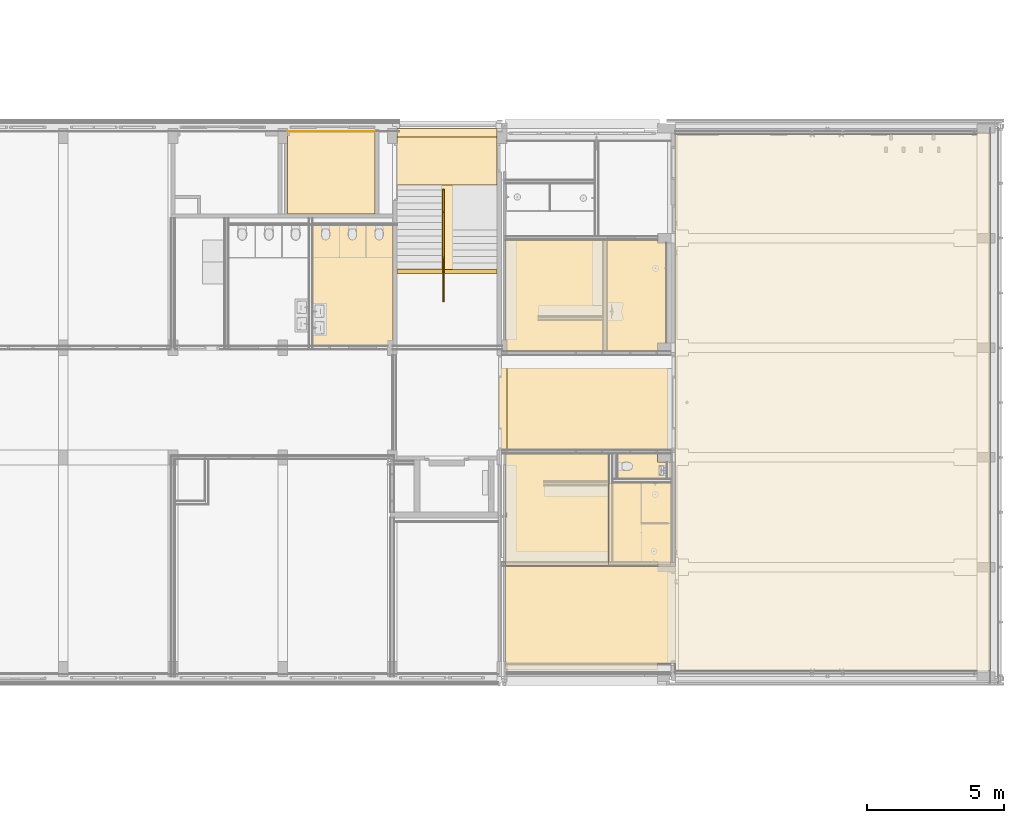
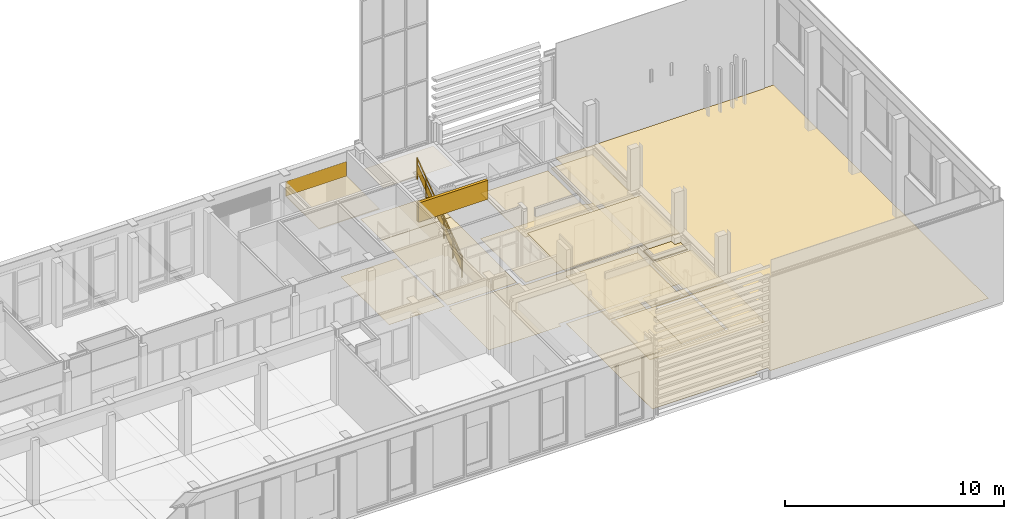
# One storey, part 89 of 109: 20 coverings, 1 railing.
"""IFC2X3 building model written with IfcOpenShell, lengths in millimetres."""

from ifc_helpers import new_model, entity, si_unit, converted_unit, derived_unit, money_unit, direction, frame, origin_with_axes, place, context, subcontext, project, spatial, faceted_brep, material, material_list, type_object, element, save


model = new_model("IFC2X3")

# Units and contexts
model_context = context("Model", 3, precision=0.01, world=origin_with_axes(), true_north=direction((0.0, 1.0)))
body_context = subcontext(model_context, "Body", "Model", "MODEL_VIEW")
ifc_project = project(units=[si_unit("LENGTHUNIT", "METRE", prefix="MILLI"), si_unit("AREAUNIT", "SQUARE_METRE"), si_unit("VOLUMEUNIT", "CUBIC_METRE"), converted_unit("PLANEANGLEUNIT", "DEGREE", entity("IfcPlaneAngleMeasure", 0.0174532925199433), si_unit("PLANEANGLEUNIT", "RADIAN"), dimensions=[0, 0, 0, 0, 0, 0, 0]), money_unit("EUR"), converted_unit("TIMEUNIT", "Year", entity("IfcTimeMeasure", 31557600.0), si_unit("TIMEUNIT", "SECOND"), dimensions=[0, 0, 1, 0, 0, 0, 0]), si_unit("MASSUNIT", "GRAM", prefix="KILO"), si_unit("THERMODYNAMICTEMPERATUREUNIT", "DEGREE_CELSIUS"), si_unit("LUMINOUSINTENSITYUNIT", "LUMEN"), si_unit("ENERGYUNIT", "JOULE", prefix="MEGA"), derived_unit("THERMALCONDUCTANCEUNIT", [(si_unit("POWERUNIT", "WATT"), 1), (si_unit("LENGTHUNIT", "METRE"), -1), (si_unit("THERMODYNAMICTEMPERATUREUNIT", "KELVIN"), -1)]), derived_unit("SPECIFICHEATCAPACITYUNIT", [(si_unit("ENERGYUNIT", "JOULE"), 1), (si_unit("MASSUNIT", "GRAM", prefix="KILO"), -1), (si_unit("THERMODYNAMICTEMPERATUREUNIT", "KELVIN"), -1)]), derived_unit("MASSDENSITYUNIT", [(si_unit("MASSUNIT", "GRAM", prefix="KILO"), 1), (si_unit("VOLUMEUNIT", "CUBIC_METRE"), -1)])], contexts=[model_context])

# Site, building, storey
site_placement = place(None, origin_with_axes())
site = spatial("IfcSite", under=ifc_project, at=site_placement, Name="<site naam>", CompositionType="ELEMENT")
building_placement = place(site_placement, origin_with_axes())
building = spatial("IfcBuilding", under=site, at=building_placement, Name="<Naam gebouw>", CompositionType="ELEMENT")
storey_placement = place(building_placement, origin_with_axes())
storey = spatial("IfcBuildingStorey", under=building, at=storey_placement, Name="00 Begane grond", CompositionType="ELEMENT", Elevation=0.0)

# Coverings
ifc_material_1 = material(Name="Gietvloer type 02a")
covering_type_1 = type_object("IfcCoveringType", Name="VA-02a 3", PredefinedType="CEILING")
covering_1_placement = place(storey_placement, frame((52135.00000000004, 4049.999962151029, 0.0), z_axis=(0.0, 0.0, 1.0), x_axis=(1.0, 0.0, 0.0)))
element("IfcCovering", 1, at=covering_1_placement, inside=storey, type_object=covering_type_1, material=ifc_material_1, Name="43_Vloer_VA-02a", PredefinedType="CEILING", context=body_context, shape_type="Brep", body=[
    faceted_brep([(0.0, 1852.000037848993, 2.999999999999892), (16.99943118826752, 1852.000037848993, 2.999999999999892), (16.99943118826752, 1928.000090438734, 2.999999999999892), (30.00000000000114, 1928.000106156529, 2.999999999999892), (30.00000000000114, 1767.999969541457, 2.999999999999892), (16.99943118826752, 1767.999985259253, 2.999999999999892), (16.99943118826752, 1844.000037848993, 2.999999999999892), (0.0, 1844.000037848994, 2.999999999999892), (0.0, 0.0, 2.999999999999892), (3752.814489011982, 0.0, 2.999999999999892), (3752.814489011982, 4075.000061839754, 2.999999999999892), (0.0, 4075.000061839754, 2.999999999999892), (16.99943118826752, 1852.000037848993, 0.0), (0.0, 1852.000037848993, 0.0), (16.99943118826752, 1928.000090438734, 0.0), (30.00000000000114, 1928.000106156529, 0.0), (30.00000000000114, 1767.999969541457, 0.0), (16.99943118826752, 1767.999985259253, 0.0), (16.99943118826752, 1844.000037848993, 0.0), (0.0, 1844.000037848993, 0.0), (0.0, 0.0, 0.0), (3752.814489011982, 0.0, 0.0), (3752.814489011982, 4075.000061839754, 0.0), (0.0, 4075.000061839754, 0.0)], [[[0, 1, 2, 3, 4, 5, 6, 7, 8, 9, 10, 11]], [[12, 1, 0, 13]], [[14, 2, 1, 12]], [[15, 3, 2, 14]], [[16, 4, 3, 15]], [[17, 5, 4, 16]], [[18, 6, 5, 17]], [[19, 7, 6, 18]], [[8, 7, 19, 20]], [[9, 8, 20, 21]], [[10, 9, 21, 22]], [[11, 10, 22, 23]], [[23, 13, 0, 11]], [[14, 12, 13, 23, 22, 21, 20, 19, 18, 17, 16, 15]]]),
])
covering_2_placement = place(storey_placement, frame((55690.99995782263, 15924.99996514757, 0.0), z_axis=(0.0, 0.0, 1.0), x_axis=(1.0, 0.0, 0.0)))
element("IfcCovering", 2, at=covering_2_placement, inside=storey, type_object=covering_type_1, material=ifc_material_1, Name="43_Vloer_VA-02a", PredefinedType="CEILING", context=body_context, shape_type="Brep", body=[
    faceted_brep([(-3555.999919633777, 0.0, 3.0), (-3555.999919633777, 0.0, 0.0), (-3555.999919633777, -3649.999978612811, 0.0), (-3555.999919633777, -3649.999978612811, 3.0), (1984.000060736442, 0.0, 3.0), (1984.000060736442, 0.0, 0.0), (1984.000060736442, -99.99988493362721, 0.0), (2297.000103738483, -99.99988493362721, 0.0), (2297.000103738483, -3750.000047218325, 0.0), (1984.000060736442, -3750.000047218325, 0.0), (1984.000060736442, -4049.999977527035, 0.0), (-3515.999947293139, -4049.999977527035, 0.0), (-3515.999947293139, -3649.999978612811, 0.0), (-3515.999947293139, -3649.999978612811, 3.0), (-3515.999947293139, -4049.999977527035, 3.0), (1984.000060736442, -4049.999977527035, 3.0), (1984.000060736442, -3750.000047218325, 3.0), (2297.000103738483, -3750.000047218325, 3.0), (2297.000103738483, -99.99988493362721, 3.0), (1984.000060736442, -99.99988493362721, 3.0)], [[[0, 1, 2, 3]], [[4, 5, 1, 0]], [[1, 5, 6, 7, 8, 9, 10, 11, 12, 2]], [[3, 2, 12, 13]], [[4, 0, 3, 13, 14, 15, 16, 17, 18, 19]], [[19, 6, 5, 4]], [[18, 7, 6, 19]], [[17, 8, 7, 18]], [[16, 9, 8, 17]], [[15, 10, 9, 16]], [[14, 11, 10, 15]], [[13, 12, 11, 14]]]),
])
covering_3_placement = place(storey_placement, frame((45095.00006039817, 16474.94979658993, 0.0), z_axis=(0.0, 0.0, 1.0), x_axis=(1.0, 0.0, 0.0)))
element("IfcCovering", 3, at=covering_3_placement, inside=storey, type_object=covering_type_1, material=ifc_material_1, Name="43_Vloer_VA-02a", PredefinedType="CEILING", context=body_context, shape_type="Brep", body=[
    faceted_brep([(0.0, 0.0, 3.0), (0.0, 0.0, 0.0), (0.0, -4399.18189744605, 0.0), (0.0, -4399.18189744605, 3.0), (2919.999958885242, 0.0, 3.0), (2919.999958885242, 0.0, 0.0), (2919.999958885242, -4399.18189744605, 0.0), (2919.999958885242, -4399.18189744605, 3.0)], [[[0, 1, 2, 3]], [[4, 5, 1, 0]], [[2, 1, 5, 6]], [[3, 2, 6, 7]], [[4, 0, 3, 7]], [[7, 6, 5, 4]]]),
])
covering_4_placement = place(storey_placement, frame((56157.78285495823, 8125.000037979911, 0.0), z_axis=(0.0, 0.0, 1.0), x_axis=(1.0, 0.0, 0.0)))
element("IfcCovering", 4, at=covering_4_placement, inside=storey, type_object=covering_type_1, material=ifc_material_1, Name="43_Vloer_VA-02a", PredefinedType="CEILING", context=body_context, shape_type="Brep", body=[
    faceted_brep([(0.0, 0.0, 3.0), (0.0, 0.0, 0.0), (0.0, -900.0000114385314, 0.0), (0.0, -900.0000114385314, 3.0), (483.2171539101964, 0.0, 3.0), (483.2171539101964, 0.0, 0.0), (483.2171539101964, 149.9999671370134, 0.0), (1517.217144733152, 149.9999671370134, 0.0), (1517.217144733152, -300.0000236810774, 0.0), (1999.999959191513, -300.0000236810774, 0.0), (1999.999959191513, -900.0000114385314, 0.0), (1999.999959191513, -900.0000114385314, 3.0), (1999.999959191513, -300.0000236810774, 3.0), (1517.217144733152, -300.0000236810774, 3.0), (1517.217144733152, 149.9999671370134, 3.0), (483.2171539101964, 149.9999671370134, 3.0)], [[[0, 1, 2, 3]], [[4, 5, 1, 0]], [[2, 1, 5, 6, 7, 8, 9, 10]], [[3, 2, 10, 11]], [[4, 0, 3, 11, 12, 13, 14, 15]], [[15, 6, 5, 4]], [[14, 7, 6, 15]], [[13, 8, 7, 14]], [[12, 9, 8, 13]], [[11, 10, 9, 12]]]),
])
ifc_material_2 = material(Name="schoonloopmat")
covering_type_2 = type_object("IfcCoveringType", Name="VA-04 3", PredefinedType="CEILING")
covering_5_placement = place(storey_placement, frame((48175.00000000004, 18074.98162930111, 0.0), z_axis=(0.0, 0.0, 1.0), x_axis=(1.0, 0.0, 0.0)))
element("IfcCovering", 5, at=covering_5_placement, inside=storey, type_object=covering_type_2, material=ifc_material_2, Name="43_Vloer_VA-04", PredefinedType="CEILING", context=body_context, shape_type="Brep", body=[
    faceted_brep([(0.0, 0.0, 3.0), (0.0, 0.0, 0.0), (3649.999999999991, 0.0, 0.0), (3649.999999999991, 0.0, 3.0), (0.0, 1925.018322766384, 3.0), (0.0, 1925.018322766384, 0.0), (3649.999999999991, 1925.018322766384, 0.0), (3649.999999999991, 1925.018322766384, 3.0)], [[[0, 1, 2, 3]], [[4, 5, 1, 0]], [[2, 1, 5, 6]], [[3, 2, 6, 7]], [[4, 0, 3, 7]], [[7, 6, 5, 4]]]),
])
ifc_material_3 = material(Name="sportvloer")
covering_type_3 = type_object("IfcCoveringType", Name="VA-03 3", PredefinedType="CEILING")
covering_6_placement = place(storey_placement, frame((58317.78280282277, 4024.999981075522, 0.0), z_axis=(0.0, 0.0, 1.0), x_axis=(1.0, 0.0, 0.0)))
element("IfcCovering", 6, at=covering_6_placement, inside=storey, type_object=covering_type_3, material=ifc_material_3, Name="43_Vloer_VA-03", PredefinedType="CEILING", context=body_context, shape_type="Brep", body=[
    faceted_brep([(0.0, 0.0, 3.0), (0.0, 0.0, 0.0), (-6182.782883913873, 0.0, 0.0), (-6182.782883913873, 0.0, 3.0), (0.0, 15759.99989971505, 3.0), (0.0, 15759.99989971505, 0.0), (11007.2172352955, 15759.99989971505, 0.0), (11007.2172352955, 15800.00001892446, 0.0), (11494.21715184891, 15800.00001892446, 0.0), (11494.21685382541, -3799.089221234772, 0.0), (7.217235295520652, -3799.089221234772, 0.0), (7.217235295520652, -3546.999981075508, 0.0), (-642.7827647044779, -3546.999981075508, 0.0), (-642.7827647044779, -3756.000088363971, 0.0), (-6182.782883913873, -3756.000088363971, 0.0), (-6182.782883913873, -3756.000088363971, 3.0), (-642.7827647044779, -3756.000088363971, 3.0), (-642.7827647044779, -3546.999981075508, 3.0), (7.217235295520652, -3546.999981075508, 3.0), (7.217235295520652, -3799.089221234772, 3.0), (11494.21685382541, -3799.089221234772, 3.0), (11494.21715184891, 15800.00001892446, 3.0), (11007.2172352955, 15800.00001892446, 3.0), (11007.2172352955, 15759.99989971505, 3.0)], [[[0, 1, 2, 3]], [[4, 5, 1, 0]], [[2, 1, 5, 6, 7, 8, 9, 10, 11, 12, 13, 14]], [[3, 2, 14, 15]], [[0, 3, 15, 16, 17, 18, 19, 20, 21, 22, 23, 4]], [[23, 6, 5, 4]], [[22, 7, 6, 23]], [[21, 8, 7, 22]], [[20, 9, 8, 21]], [[19, 10, 9, 20]], [[18, 11, 10, 19]], [[17, 12, 11, 18]], [[16, 13, 12, 17]], [[15, 14, 13, 16]]]),
])
ifc_material_4 = material(Name="systeemplafond 600*600 kleur wit")
covering_type_4 = type_object("IfcCoveringType", Name="PA-01a 40", PredefinedType="CEILING")
covering_7_placement = place(storey_placement, frame((52175.00000000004, 8275.000000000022, 2800.0), z_axis=(0.0, 0.0, 1.0), x_axis=(1.0, 0.0, 0.0)))
element("IfcCovering", 7, at=covering_7_placement, inside=storey, type_object=covering_type_4, material=ifc_material_4, Name="45_Vloer_PA-01a", PredefinedType="CEILING", context=body_context, shape_type="Brep", body=[
    faceted_brep([(0.0, 0.0, 40.00000000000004), (0.0, 0.0, 0.0), (6028.782844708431, 0.0, 0.0), (6028.782844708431, 0.0, 40.00000000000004), (0.0, 3449.999963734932, 40.00000000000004), (0.0, 3449.999963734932, 0.0), (6028.782844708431, 3449.999963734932, 0.0), (6028.782844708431, 3449.999963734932, 40.00000000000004)], [[[0, 1, 2, 3]], [[4, 5, 1, 0]], [[2, 1, 5, 6]], [[3, 2, 6, 7]], [[4, 0, 3, 7]], [[7, 6, 5, 4]]]),
])
covering_8_placement = place(storey_placement, frame((56217.8144885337, 7225.000000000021, 2600.0), z_axis=(0.0, 0.0, 1.0), x_axis=(1.0, 0.0, 0.0)))
element("IfcCovering", 8, at=covering_8_placement, inside=storey, type_object=covering_type_4, material=ifc_material_4, Name="45_Vloer_PA-01a", PredefinedType="CEILING", context=body_context, shape_type="Brep", body=[
    faceted_brep([(0.0, 0.0, 40.00000000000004), (0.0, 0.0, 0.0), (1782.185507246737, 0.0, 0.0), (1782.185507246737, 0.0, 40.00000000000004), (0.0, 899.9999847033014, 40.00000000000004), (0.0, 899.9999847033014, 0.0), (1457.185506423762, 899.9999847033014, 0.0), (1457.185506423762, 600.0000124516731, 0.0), (1782.185507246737, 600.0000124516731, 0.0), (1782.185507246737, 600.0000124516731, 40.00000000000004), (1457.185506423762, 600.0000124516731, 40.00000000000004), (1457.185506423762, 899.9999847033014, 40.00000000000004)], [[[0, 1, 2, 3]], [[4, 5, 1, 0]], [[2, 1, 5, 6, 7, 8]], [[3, 2, 8, 9]], [[4, 0, 3, 9, 10, 11]], [[11, 6, 5, 4]], [[10, 7, 6, 11]], [[9, 8, 7, 10]]]),
])
ifc_material_5 = material(Name="systeemplafond 600*600 vochtbestendig")
covering_type_5 = type_object("IfcCoveringType", Name="PA-01b 40", PredefinedType="CEILING")
covering_9_placement = place(storey_placement, frame((55841.00000323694, 11875.00000000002, 2600.0), z_axis=(0.0, 0.0, 1.0), x_axis=(1.0, 0.0, 0.0)))
element("IfcCovering", 9, at=covering_9_placement, inside=storey, type_object=covering_type_5, material=ifc_material_5, Name="45_Vloer_PA-01b", PredefinedType="CEILING", context=body_context, shape_type="Brep", body=[
    faceted_brep([(0.0, 0.0, 40.00000000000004), (0.0, 0.0, 0.0), (2159.000005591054, 0.0, 0.0), (2159.000005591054, 0.0, 40.00000000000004), (0.0, 4049.99999827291, 40.00000000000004), (0.0, 4049.99999827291, 0.0), (2159.000005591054, 4049.99999827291, 0.0), (2159.000005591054, 4049.99999827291, 40.00000000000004)], [[[0, 1, 2, 3]], [[4, 5, 1, 0]], [[2, 1, 5, 6]], [[3, 2, 6, 7]], [[4, 0, 3, 7]], [[7, 6, 5, 4]]]),
])
covering_10_placement = place(storey_placement, frame((52134.99996363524, 8125.000002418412, 2600.0), z_axis=(0.0, 0.0, 1.0), x_axis=(1.0, 0.0, 0.0)))
element("IfcCovering", 10, at=covering_10_placement, inside=storey, type_object=covering_type_5, material=ifc_material_5, Name="45_Vloer_PA-01b", PredefinedType="CEILING", context=body_context, shape_type="Brep", body=[
    faceted_brep([(0.0, -2223.000002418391, 40.00000000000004), (16.99946755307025, -2223.000002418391, 40.00000000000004), (16.99946755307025, -2146.99994982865, 40.00000000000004), (30.00003636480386, -2146.999934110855, 40.00000000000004), (30.00003636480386, -2307.000070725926, 40.00000000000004), (16.99946755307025, -2307.000055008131, 40.00000000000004), (16.99946755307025, -2231.000002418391, 40.00000000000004), (0.0, -2231.00000241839, 40.00000000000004), (0.0, -3950.000002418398, 40.00000000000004), (3752.814548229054, -3950.000002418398, 40.00000000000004), (3752.814548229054, 0.0, 40.00000000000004), (0.0, 0.0, 40.00000000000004), (16.99946755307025, -2223.000002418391, 0.0), (0.0, -2223.000002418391, 0.0), (16.99946755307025, -2146.99994982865, 0.0), (30.00003636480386, -2146.999934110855, 0.0), (30.00003636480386, -2307.000070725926, 0.0), (16.99946755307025, -2307.000055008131, 0.0), (16.99946755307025, -2231.000002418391, 0.0), (0.0, -2231.00000241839, 0.0), (0.0, -3950.000002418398, 0.0), (3752.814548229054, -3950.000002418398, 0.0), (3752.814548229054, 0.0, 0.0), (0.0, 0.0, 0.0)], [[[0, 1, 2, 3, 4, 5, 6, 7, 8, 9, 10, 11]], [[12, 1, 0, 13]], [[14, 2, 1, 12]], [[15, 3, 2, 14]], [[16, 4, 3, 15]], [[17, 5, 4, 16]], [[18, 6, 5, 17]], [[19, 7, 6, 18]], [[8, 7, 19, 20]], [[9, 8, 20, 21]], [[10, 9, 21, 22]], [[11, 10, 22, 23]], [[23, 13, 0, 11]], [[14, 12, 13, 23, 22, 21, 20, 19, 18, 17, 16, 15]]]),
])
covering_11_placement = place(storey_placement, frame((56037.8144885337, 7075.000003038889, 2600.0), z_axis=(0.0, 0.0, 1.0), x_axis=(1.0, 0.0, 0.0)))
element("IfcCovering", 11, at=covering_11_placement, inside=storey, type_object=covering_type_5, material=ifc_material_5, Name="45_Vloer_PA-01b", PredefinedType="CEILING", context=body_context, shape_type="Brep", body=[
    faceted_brep([(0.0, 0.0, 40.00000000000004), (0.0, 0.0, 0.0), (0.0, -2900.000003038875, 0.0), (0.0, -2900.000003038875, 40.00000000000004), (2119.968365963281, 0.0, 40.00000000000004), (2119.968365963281, 0.0, 0.0), (2119.968365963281, -2900.000003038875, 0.0), (2119.968365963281, -2900.000003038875, 40.00000000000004)], [[[0, 1, 2, 3]], [[4, 5, 1, 0]], [[2, 1, 5, 6]], [[3, 2, 6, 7]], [[4, 0, 3, 7]], [[7, 6, 5, 4]]]),
])
covering_12_placement = place(storey_placement, frame((52135.00000000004, 11875.00000000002, 2500.0), z_axis=(0.0, 0.0, 1.0), x_axis=(1.0, 0.0, 0.0)))
element("IfcCovering", 12, at=covering_12_placement, inside=storey, type_object=covering_type_5, material=ifc_material_5, Name="45_Vloer_PA-01b", PredefinedType="CEILING", context=body_context, shape_type="Brep", body=[
    faceted_brep([(0.0, 0.0, 40.00000000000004), (0.0, 0.0, 0.0), (3555.999973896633, 0.0, 0.0), (3555.999973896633, 0.0, 40.00000000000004), (0.0, 4049.99999827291, 40.00000000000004), (0.0, 4049.99999827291, 0.0), (3555.999973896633, 4049.99999827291, 0.0), (3555.999973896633, 4049.99999827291, 40.00000000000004)], [[[0, 1, 2, 3]], [[4, 5, 1, 0]], [[2, 1, 5, 6]], [[3, 2, 6, 7]], [[4, 0, 3, 7]], [[7, 6, 5, 4]]]),
])
ifc_material_6 = material(Name="geïntegreerd balvast lamellenplafond")
covering_type_6 = type_object("IfcCoveringType", Name="PA-04 40", PredefinedType="CEILING")
covering_13_placement = place(storey_placement, frame((52135.00000000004, 478.0000000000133, 2600.0), z_axis=(0.0, 0.0, 1.0), x_axis=(1.0, 0.0, 0.0)))
element("IfcCovering", 13, at=covering_13_placement, inside=storey, type_object=covering_type_6, material=ifc_material_6, Name="45_Vloer_PA-04", PredefinedType="CEILING", context=body_context, shape_type="Brep", body=[
    faceted_brep([(0.0, 0.0, 40.00000000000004), (0.0, 0.0, 0.0), (6039.999999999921, 0.0, 0.0), (6039.999999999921, 0.0, 40.00000000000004), (0.0, 3547.0, 40.00000000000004), (0.0, 3547.0, 0.0), (6039.999999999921, 3547.0, 0.0), (6039.999999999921, 3547.0, 40.00000000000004)], [[[0, 1, 2, 3]], [[4, 5, 1, 0]], [[2, 1, 5, 6]], [[3, 2, 6, 7]], [[4, 0, 3, 7]], [[7, 6, 5, 4]]]),
])
ifc_material_7 = material(Name="Vinyl type 01b")
covering_type_7 = type_object("IfcCoveringType", Name="VA-01b 3", PredefinedType="CEILING")
covering_14_placement = place(storey_placement, frame((48037.38026770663, 11725.00002073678, 0.0), z_axis=(0.0, 0.0, 1.0), x_axis=(1.0, 0.0, 0.0)))
element("IfcCovering", 14, at=covering_14_placement, inside=storey, type_object=covering_type_7, material=ifc_material_7, Name="43_Vloer_VA-01b", PredefinedType="CEILING", context=body_context, shape_type="Brep", body=[
    faceted_brep([(0.0, 0.0, 3.0), (0.0, 0.0, 0.0), (0.0, -3670.000022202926, 0.0), (0.0, -3670.000022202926, 3.0), (137.6197246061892, 0.0, 3.0), (137.6197246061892, 0.0, 0.0), (137.6197246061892, 235.9999792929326, 0.0), (3886.301160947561, 235.9999792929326, 0.0), (3886.301160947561, 0.0, 0.0), (10280.40257700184, 0.0, 0.0), (10280.40257700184, -3450.000020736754, 0.0), (3787.619732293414, -3450.000020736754, 0.0), (3787.619732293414, -3670.000022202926, 0.0), (3787.619732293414, -3670.000022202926, 3.0), (3787.619732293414, -3450.000020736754, 3.0), (10280.40257700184, -3450.000020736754, 3.0), (10280.40257700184, 0.0, 3.0), (3886.301160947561, 0.0, 3.0), (3886.301160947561, 235.9999792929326, 3.0), (137.6197246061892, 235.9999792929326, 3.0)], [[[0, 1, 2, 3]], [[4, 5, 1, 0]], [[2, 1, 5, 6, 7, 8, 9, 10, 11, 12]], [[3, 2, 12, 13]], [[4, 0, 3, 13, 14, 15, 16, 17, 18, 19]], [[19, 6, 5, 4]], [[18, 7, 6, 19]], [[17, 8, 7, 18]], [[16, 9, 8, 17]], [[15, 10, 9, 16]], [[14, 11, 10, 15]], [[13, 12, 11, 14]]]),
])

# Railing
ifc_material_8 = material(Name="staal balustrade")
ifc_material_9 = material(Name="hout AFW")
ifc_material_list = material_list([ifc_material_8, ifc_material_8, ifc_material_8, ifc_material_8, ifc_material_8, ifc_material_9, ifc_material_8, ifc_material_9, ifc_material_8, ifc_material_9, ifc_material_8, ifc_material_9, ifc_material_8, ifc_material_9])
railing_type = type_object("IfcRailingType", Name="Railing Type", PredefinedType="NOTDEFINED")
railing_placement = place(storey_placement, frame((49810.00000000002, 13680.00000000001, 177.0833333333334), z_axis=(0.0, 0.0, 1.0), x_axis=(1.0, 0.0, 0.0)))
element("IfcRailing", 15, at=railing_placement, inside=storey, type_object=railing_type, material=ifc_material_list, Name="34_Reling_", PredefinedType="NOTDEFINED", context=body_context, shape_type="Brep", body=[
    faceted_brep([(74.99999999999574, 9.999999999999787, -192.6215277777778), (24.99999999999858, 9.999999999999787, -192.6215277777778), (24.99999999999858, 9.999999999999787, 987.3784722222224), (74.99999999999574, 9.999999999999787, 987.3784722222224), (74.99999999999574, -9.999999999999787, -207.3784722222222), (24.99999999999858, -9.999999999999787, -207.3784722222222), (24.99999999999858, -9.999999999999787, 972.6215277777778), (74.99999999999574, -9.999999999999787, 972.6215277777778)], [[[0, 1, 2, 3]], [[0, 4, 5, 1]], [[1, 5, 6, 2]], [[3, 2, 6, 7]], [[4, 0, 3, 7]], [[5, 4, 7, 6]]]),
    faceted_brep([(24.99999999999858, 0.0, 1000.0), (24.99999999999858, 17.81169297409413, 975.8599172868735), (24.99999999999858, 9.764998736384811, 969.9226862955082), (24.99999999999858, -8.046694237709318, 994.0627690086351), (74.99999999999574, 0.0, 1000.0), (74.99999999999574, 17.81169297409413, 975.8599172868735), (74.99999999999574, 9.764998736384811, 969.9226862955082), (74.99999999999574, -8.046694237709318, 994.0627690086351)], [[[0, 1, 2, 3]], [[0, 4, 5, 1]], [[1, 5, 6, 2]], [[3, 2, 6, 7]], [[4, 0, 3, 7]], [[5, 4, 7, 6]]]),
    faceted_brep([(74.99999999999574, 4090.000000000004, 2817.795138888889), (24.99999999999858, 4090.000000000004, 2817.795138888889), (24.99999999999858, 4090.000000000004, 3997.795138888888), (74.99999999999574, 4090.000000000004, 3997.795138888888), (74.99999999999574, 4070.0, 2803.038194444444), (24.99999999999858, 4070.0, 2803.038194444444), (24.99999999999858, 4070.0, 3983.038194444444), (74.99999999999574, 4070.0, 3983.038194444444)], [[[0, 1, 2, 3]], [[0, 4, 5, 1]], [[1, 5, 6, 2]], [[3, 2, 6, 7]], [[4, 0, 3, 7]], [[5, 4, 7, 6]]]),
    faceted_brep([(74.99999999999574, 4080.000000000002, 4010.416666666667), (74.99999999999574, 4097.811692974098, 3986.27658395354), (74.99999999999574, 4105.858387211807, 3992.213814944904), (74.99999999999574, 4088.046694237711, 4016.353897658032), (24.99999999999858, 4080.000000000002, 4010.416666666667), (24.99999999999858, 4097.811692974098, 3986.27658395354), (24.99999999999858, 4105.858387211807, 3992.213814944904), (24.99999999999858, 4088.046694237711, 4016.353897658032)], [[[0, 1, 2, 3]], [[0, 4, 5, 1]], [[1, 5, 6, 2]], [[3, 2, 6, 7]], [[4, 0, 3, 7]], [[5, 4, 7, 6]]]),
    faceted_brep([(74.99999999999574, 0.0, 1000.0), (74.99999999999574, 17.81169297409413, 975.8599172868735), (74.99999999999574, 4097.811692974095, 3986.27658395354), (74.99999999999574, 4080.000000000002, 4010.416666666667), (24.99999999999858, 0.0, 1000.0), (24.99999999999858, 17.81169297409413, 975.8599172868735), (24.99999999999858, 4097.811692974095, 3986.27658395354), (24.99999999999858, 4080.000000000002, 4010.416666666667)], [[[0, 1, 2, 3]], [[0, 4, 5, 1]], [[1, 5, 6, 2]], [[3, 2, 6, 7]], [[4, 0, 3, 7]], [[5, 4, 7, 6]]]),
    faceted_brep([(39.99999999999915, 806.0000000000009, 794.704861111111), (39.99999999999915, 9.999999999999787, 207.3784722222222), (39.99999999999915, 9.999999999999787, 707.3784722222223), (39.99999999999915, 806.0000000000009, 1294.704861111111), (59.99999999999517, 9.999999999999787, 207.3784722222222), (59.99999999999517, 806.0000000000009, 794.704861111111), (59.99999999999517, 9.999999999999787, 707.3784722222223), (59.99999999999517, 806.0000000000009, 1294.704861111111)], [[[0, 1, 2, 3]], [[4, 1, 0, 5]], [[6, 2, 1, 4]], [[3, 2, 6, 7]], [[0, 3, 7, 5]], [[6, 4, 5, 7]]]),
    faceted_brep([(74.99999999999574, 821.0000000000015, 405.7725694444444), (24.99999999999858, 821.0000000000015, 405.7725694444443), (24.99999999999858, 821.0000000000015, 1605.772569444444), (74.99999999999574, 821.0000000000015, 1605.772569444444), (74.99999999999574, 811.0, 398.3940972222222), (24.99999999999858, 811.0, 398.3940972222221), (24.99999999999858, 811.0, 1598.394097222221), (74.99999999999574, 811.0, 1598.394097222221)], [[[0, 1, 2, 3]], [[0, 4, 5, 1]], [[1, 5, 6, 2]], [[3, 2, 6, 7]], [[4, 0, 3, 7]], [[5, 4, 7, 6]]]),
    faceted_brep([(39.99999999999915, 1622.000000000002, 1396.788194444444), (39.99999999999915, 826.0000000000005, 809.4618055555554), (39.99999999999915, 826.0000000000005, 1309.461805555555), (39.99999999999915, 1622.000000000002, 1896.788194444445), (59.99999999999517, 826.0000000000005, 809.4618055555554), (59.99999999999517, 1622.000000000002, 1396.788194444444), (59.99999999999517, 826.0000000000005, 1309.461805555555), (59.99999999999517, 1622.000000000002, 1896.788194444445)], [[[0, 1, 2, 3]], [[4, 1, 0, 5]], [[6, 2, 1, 4]], [[3, 2, 6, 7]], [[0, 3, 7, 5]], [[6, 4, 5, 7]]]),
    faceted_brep([(74.99999999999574, 1637.000000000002, 1007.855902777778), (24.99999999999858, 1637.000000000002, 1007.855902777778), (24.99999999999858, 1637.000000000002, 2207.855902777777), (74.99999999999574, 1637.000000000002, 2207.855902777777), (74.99999999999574, 1627.000000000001, 1000.477430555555), (24.99999999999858, 1627.000000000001, 1000.477430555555), (24.99999999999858, 1627.000000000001, 2200.477430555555), (74.99999999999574, 1627.000000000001, 2200.477430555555)], [[[0, 1, 2, 3]], [[0, 4, 5, 1]], [[1, 5, 6, 2]], [[3, 2, 6, 7]], [[4, 0, 3, 7]], [[5, 4, 7, 6]]]),
    faceted_brep([(39.99999999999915, 2438.000000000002, 1998.871527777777), (39.99999999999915, 1642.000000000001, 1411.545138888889), (39.99999999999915, 1642.000000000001, 1911.545138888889), (39.99999999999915, 2438.000000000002, 2498.871527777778), (59.99999999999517, 1642.000000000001, 1411.545138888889), (59.99999999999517, 2438.000000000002, 1998.871527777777), (59.99999999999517, 1642.000000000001, 1911.545138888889), (59.99999999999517, 2438.000000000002, 2498.871527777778)], [[[0, 1, 2, 3]], [[4, 1, 0, 5]], [[6, 2, 1, 4]], [[3, 2, 6, 7]], [[0, 3, 7, 5]], [[6, 4, 5, 7]]]),
    faceted_brep([(74.99999999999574, 2453.0, 1609.939236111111), (24.99999999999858, 2453.0, 1609.939236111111), (24.99999999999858, 2453.0, 2809.93923611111), (74.99999999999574, 2453.0, 2809.93923611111), (74.99999999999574, 2443.000000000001, 1602.560763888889), (24.99999999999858, 2443.000000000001, 1602.560763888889), (24.99999999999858, 2443.000000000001, 2802.560763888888), (74.99999999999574, 2443.000000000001, 2802.560763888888)], [[[0, 1, 2, 3]], [[0, 4, 5, 1]], [[1, 5, 6, 2]], [[3, 2, 6, 7]], [[4, 0, 3, 7]], [[5, 4, 7, 6]]]),
    faceted_brep([(39.99999999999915, 3254.000000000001, 2600.95486111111), (39.99999999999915, 2458.000000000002, 2013.628472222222), (39.99999999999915, 2458.000000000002, 2513.628472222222), (39.99999999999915, 3254.000000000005, 3100.954861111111), (59.99999999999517, 2458.000000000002, 2013.628472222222), (59.99999999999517, 3254.000000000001, 2600.95486111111), (59.99999999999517, 2458.000000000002, 2513.628472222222), (59.99999999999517, 3254.000000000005, 3100.954861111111)], [[[0, 1, 2, 3]], [[4, 1, 0, 5]], [[6, 2, 1, 4]], [[3, 2, 6, 7]], [[0, 3, 7, 5]], [[6, 4, 5, 7]]]),
    faceted_brep([(74.99999999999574, 3269.000000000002, 2212.022569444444), (24.99999999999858, 3269.000000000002, 2212.022569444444), (24.99999999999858, 3269.000000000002, 3412.022569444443), (74.99999999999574, 3269.000000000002, 3412.022569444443), (74.99999999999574, 3259.000000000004, 2204.644097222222), (24.99999999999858, 3259.000000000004, 2204.644097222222), (24.99999999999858, 3259.000000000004, 3404.644097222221), (74.99999999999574, 3259.000000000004, 3404.644097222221)], [[[0, 1, 2, 3]], [[0, 4, 5, 1]], [[1, 5, 6, 2]], [[3, 2, 6, 7]], [[4, 0, 3, 7]], [[5, 4, 7, 6]]]),
    faceted_brep([(39.99999999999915, 4070.000000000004, 3203.038194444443), (39.99999999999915, 3274.000000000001, 2615.711805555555), (39.99999999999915, 3274.000000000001, 3115.711805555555), (39.99999999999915, 4070.000000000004, 3703.038194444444), (59.99999999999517, 3274.000000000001, 2615.711805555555), (59.99999999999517, 4070.000000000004, 3203.038194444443), (59.99999999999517, 3274.000000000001, 3115.711805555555), (59.99999999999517, 4070.000000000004, 3703.038194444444)], [[[0, 1, 2, 3]], [[4, 1, 0, 5]], [[6, 2, 1, 4]], [[3, 2, 6, 7]], [[0, 3, 7, 5]], [[6, 4, 5, 7]]]),
])

# Coverings
ifc_material_10 = material(Name="Behoud natuursteen tegels")
covering_type_8 = type_object("IfcCoveringType", Name="VA-06 3", PredefinedType="CEILING")
covering_15_placement = place(storey_placement, frame((48175.00000000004, 12075.00000002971, 0.0), z_axis=(0.0, 0.0, 1.0), x_axis=(1.0, 0.0, 0.0)))
element("IfcCovering", 16, at=covering_15_placement, inside=storey, type_object=covering_type_8, material=ifc_material_10, Name="43_Vloer_VA-06", PredefinedType="CEILING", context=body_context, shape_type="Brep", body=[
    faceted_brep([(0.0, 0.0, 3.0), (0.0, 0.0, 0.0), (3650.000024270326, 0.0, 0.0), (3650.000024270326, 0.0, 3.0), (0.0, 5999.981629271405, 3.0), (0.0, 5999.981629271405, 0.0), (3650.000024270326, 5999.981629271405, 0.0), (3650.000024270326, 5999.981629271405, 3.0)], [[[0, 1, 2, 3]], [[4, 5, 1, 0]], [[2, 1, 5, 6]], [[3, 2, 6, 7]], [[4, 0, 3, 7]], [[7, 6, 5, 4]]]),
])
ifc_material_11 = material(Name="verlaagd gipsvezelplaat plafond brandwerend")
covering_type_9 = type_object("IfcCoveringType", Name="PA-09 40", PredefinedType="CEILING")
covering_16_placement = place(storey_placement, frame((44174.99998715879, 19449.99997555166, 2729.999960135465), z_axis=(0.0, 0.0, 1.0), x_axis=(1.0, 0.0, 0.0)))
element("IfcCovering", 17, at=covering_16_placement, inside=storey, type_object=covering_type_9, material=ifc_material_11, Name="45_Vloer_PA-09", PredefinedType="CEILING", context=body_context, shape_type="Brep", body=[
    faceted_brep([(3187.999061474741, -2575.05012907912, 0.0), (3187.999061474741, 440.50002444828, 0.0), (3187.999061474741, 440.50002444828, 40.00000000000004), (3187.999061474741, -2575.05012907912, 40.00000000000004), (0.0, -2575.05012907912, 0.0), (0.0, 440.50002444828, 0.0), (0.0, 440.50002444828, 40.00000000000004), (0.0, -2575.05012907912, 40.00000000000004)], [[[0, 1, 2, 3]], [[4, 5, 1, 0]], [[5, 6, 2, 1]], [[3, 2, 6, 7]], [[3, 7, 4, 0]], [[7, 6, 5, 4]]]),
])
ifc_material_12 = material(Name="Gietvloer type 02b")
covering_type_10 = type_object("IfcCoveringType", Name="VA-02b 3", PredefinedType="CEILING")
covering_17_placement = place(storey_placement, frame((55887.8144885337, 4075.000000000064, 0.0), z_axis=(0.0, 0.0, 1.0), x_axis=(1.0, 0.0, 0.0)))
element("IfcCovering", 18, at=covering_17_placement, inside=storey, type_object=covering_type_10, material=ifc_material_12, Name="43_Vloer_VA-02b", PredefinedType="CEILING", context=body_context, shape_type="Brep", body=[
    faceted_brep([(0.0, 0.0, 3.0), (0.0, 0.0, 0.0), (2269.968356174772, 0.0, 0.0), (2269.968356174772, 0.0, 3.0), (0.0, 2999.999999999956, 3.0), (0.0, 2999.999999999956, 0.0), (2269.968356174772, 2999.999999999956, 0.0), (2269.968356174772, 2999.999999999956, 3.0)], [[[0, 1, 2, 3]], [[4, 5, 1, 0]], [[2, 1, 5, 6]], [[3, 2, 6, 7]], [[4, 0, 3, 7]], [[7, 6, 5, 4]]]),
])
ifc_material_13 = material(Name="schilderwerk")
covering_type_11 = type_object("IfcCoveringType", Name="PA-05 1", PredefinedType="CEILING")
covering_18_placement = place(storey_placement, frame((48175.00005065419, 17931.05559676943, 2987.5), z_axis=(0.0, 0.0, 1.0), x_axis=(1.0, 0.0, 0.0)))
element("IfcCovering", 19, at=covering_18_placement, inside=storey, type_object=covering_type_11, material=ifc_material_13, Name="45_Vloer_PA-05", PredefinedType="CEILING", context=body_context, shape_type="Brep", body=[
    faceted_brep([(0.0, 0.0, 0.0), (0.0, 0.0, -0.9999999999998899), (3649.99994934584, 0.0, -0.9999999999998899), (3649.99994934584, 0.0, 0.0), (0.0, 1754.793511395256, 0.0), (0.0, 1754.793511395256, -0.9999999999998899), (3649.99994934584, 1754.793511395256, -0.9999999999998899), (3649.99994934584, 1754.793511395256, 0.0)], [[[0, 1, 2, 3]], [[4, 5, 1, 0]], [[2, 1, 5, 6]], [[3, 2, 6, 7]], [[4, 0, 3, 7]], [[7, 6, 5, 4]]]),
])
ifc_material_14 = material(Name="aftimmering/koven multiplex")
covering_type_12 = type_object("IfcCoveringType", Name="aftimmering/koven multiplex 1060", PredefinedType="CEILING")
covering_19_placement = place(storey_placement, frame((51825.00000000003, 14850.00000000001, 3040.0), z_axis=(0.0, 0.0, 1.0), x_axis=(1.0, 0.0, 0.0)))
element("IfcCovering", 20, at=covering_19_placement, inside=storey, type_object=covering_type_12, material=ifc_material_14, Name="45_Vloer_aftimmering/koven", PredefinedType="CEILING", context=body_context, shape_type="Brep", body=[
    faceted_brep([(0.0, 0.0, 1060.0), (0.0, 0.0, 0.0), (-3649.999999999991, 0.0, 0.0), (-3649.999999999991, 0.0, 1060.0), (0.0, -150.0000036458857, 1060.0), (0.0, -150.0000036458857, 0.0), (-3649.999999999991, -150.0000036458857, 0.0), (-3649.999999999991, -150.0000036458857, 1060.0)], [[[0, 1, 2, 3]], [[4, 5, 1, 0]], [[2, 1, 5, 6]], [[3, 2, 6, 7]], [[4, 0, 3, 7]], [[7, 6, 5, 4]]]),
])
ifc_material_15 = material(Name="koven gips")
covering_type_13 = type_object("IfcCoveringType", Name="koven gips 825", PredefinedType="CEILING")
covering_20_placement = place(storey_placement, frame((44174.99996488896, 19896.89997724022, 2729.999960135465), z_axis=(0.0, 0.0, 1.0), x_axis=(1.0, 0.0, 0.0)))
element("IfcCovering", 21, at=covering_20_placement, inside=storey, type_object=covering_type_13, material=ifc_material_15, Name="45_Vloer_koven", PredefinedType="CEILING", context=body_context, shape_type="Brep", body=[
    faceted_brep([(3187.999077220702, 0.0, 0.0), (3187.999077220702, 9.100022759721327, 0.0), (3187.999077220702, 9.100022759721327, 825.0000797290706), (3187.999077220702, 0.0, 825.0000797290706), (0.0, 0.0, 0.0), (0.0, 9.100022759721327, 0.0), (0.0, 9.100022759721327, 825.0000797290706), (0.0, 0.0, 825.0000797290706)], [[[0, 1, 2, 3]], [[4, 5, 1, 0]], [[5, 6, 2, 1]], [[3, 2, 6, 7]], [[3, 7, 4, 0]], [[7, 6, 5, 4]]]),
])

save(model, "model.ifc")
